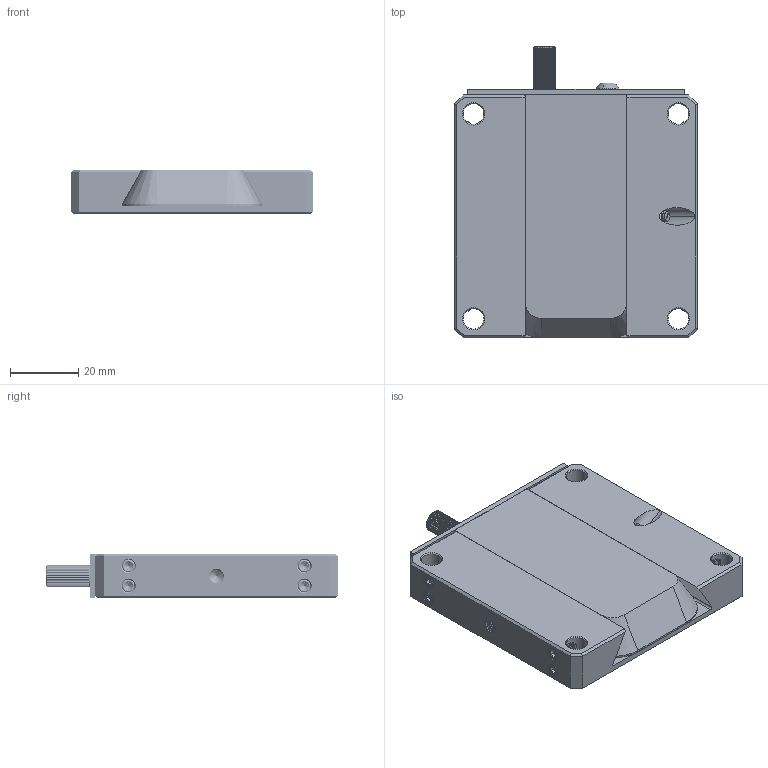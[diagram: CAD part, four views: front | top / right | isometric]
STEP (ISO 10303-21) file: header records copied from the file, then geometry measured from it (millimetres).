
FILE_DESCRIPTION((''),'2;1');
FILE_NAME('CFH60N-0001_ASM','2026-07-04T11:46:14',('R&D'),(''),'CREO PARAMETRIC BY PTC INC, 2021063','CREO PARAMETRIC BY PTC INC, 2021063','');
FILE_SCHEMA(('CONFIG_CONTROL_DESIGN'));
Products named in the file (19): CFH60N-0001-A2; CFH60N-0001-A3; CFH60N-0001-A4; CFH60N-0001-A5; CFH60N-0001-A6; CFH60N-0001-A7; CFH60N-0001-A8; CFH60N-0001-A9; CFH60N-0001-B1; CFH60N-0001-B2; CFH60N-0001-B3; CFH60N-0001-B4; CFH60N-0001-B5; CFH60N-0001-B6; CFH60N-0001-B7; CFH60N-0001-B8; CFH60N-0001-B9; CFH60N-0001-A1_ASM; CFH60N-0001_ASM
Assembly tree (18 placements, depth 3):
  CFH60N-0001_ASM
    CFH60N-0001-A1_ASM
      CFH60N-0001-A2
      CFH60N-0001-A3
      CFH60N-0001-A4
      CFH60N-0001-A5
      CFH60N-0001-A6
      CFH60N-0001-A7
      CFH60N-0001-A8
      CFH60N-0001-A9
      CFH60N-0001-B1
      CFH60N-0001-B2
      CFH60N-0001-B3
      CFH60N-0001-B4
      CFH60N-0001-B5
      CFH60N-0001-B6
      CFH60N-0001-B7
      CFH60N-0001-B8
      CFH60N-0001-B9
Bounding box: 71.12 x 85.42 x 12.7 mm (x, y, z)
Volume: 60924.1 mm3; surface area: 27758.9 mm2
Topology: 15 solids, 15 shells, 1278 faces, 3553 edges, 2254 vertices
Faces by surface type: cylinder 515, bspline 325, plane 252, cone 164, torus 16, sphere 6
Entity records: 153433 total; most frequent: CARTESIAN_POINT 125050, ORIENTED_EDGE 6990, DIRECTION 4017, EDGE_CURVE 3495, VERTEX_POINT 2254, B_SPLINE_CURVE_WITH_KNOTS 1930, AXIS2_PLACEMENT_3D 1445, EDGE_LOOP 1333
